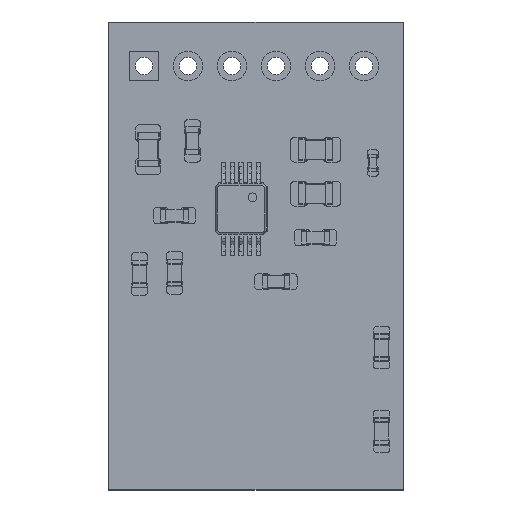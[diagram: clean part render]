
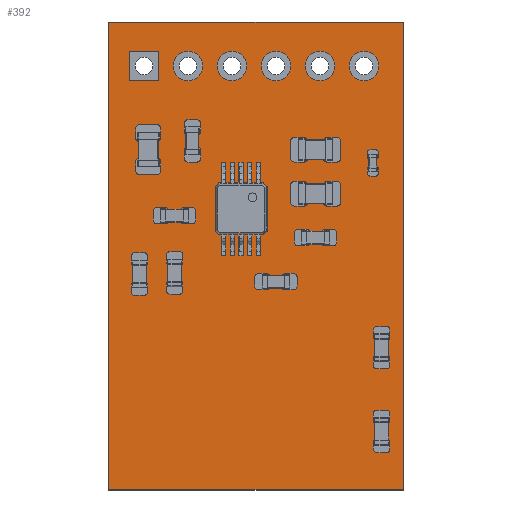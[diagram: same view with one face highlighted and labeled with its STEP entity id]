
A CAD part, top view. The second image highlights one B-rep face of the part: STEP entity #392.
In plain terms, the highlighted planar face has unit normal (0, 0, 1).
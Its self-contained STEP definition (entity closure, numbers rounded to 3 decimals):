
#75 = VERTEX_POINT('',#76);
#76 = CARTESIAN_POINT('',(134.62,-67.64,0.));
#93 = VERTEX_POINT('',#94);
#94 = CARTESIAN_POINT('',(151.62,-67.64,0.));
#100 = EDGE_CURVE('',#75,#93,#101,.T.);
#101 = LINE('',#102,#103);
#102 = CARTESIAN_POINT('',(134.62,-67.64,0.));
#103 = VECTOR('',#104,1.);
#104 = DIRECTION('',(1.,0.,0.));
#115 = VERTEX_POINT('',#116);
#116 = CARTESIAN_POINT('',(134.62,-40.64,0.));
#131 = EDGE_CURVE('',#115,#75,#132,.T.);
#132 = LINE('',#133,#134);
#133 = CARTESIAN_POINT('',(134.62,-40.64,0.));
#134 = VECTOR('',#135,1.);
#135 = DIRECTION('',(0.,-1.,0.));
#146 = VERTEX_POINT('',#147);
#147 = CARTESIAN_POINT('',(151.62,-40.64,0.));
#162 = EDGE_CURVE('',#146,#93,#163,.T.);
#163 = LINE('',#164,#165);
#164 = CARTESIAN_POINT('',(151.62,-40.64,0.));
#165 = VECTOR('',#166,1.);
#166 = DIRECTION('',(0.,-1.,0.));
#184 = EDGE_CURVE('',#115,#146,#185,.T.);
#185 = LINE('',#186,#187);
#186 = CARTESIAN_POINT('',(134.62,-40.64,0.));
#187 = VECTOR('',#188,1.);
#188 = DIRECTION('',(1.,0.,0.));
#199 = VERTEX_POINT('',#200);
#200 = CARTESIAN_POINT('',(137.152,-43.18,0.));
#216 = EDGE_CURVE('',#199,#199,#217,.T.);
#217 = CIRCLE('',#218,0.5);
#218 = AXIS2_PLACEMENT_3D('',#219,#220,#221);
#219 = CARTESIAN_POINT('',(136.652,-43.18,0.));
#220 = DIRECTION('',(0.,0.,1.));
#221 = DIRECTION('',(1.,0.,-0.));
#232 = VERTEX_POINT('',#233);
#233 = CARTESIAN_POINT('',(139.692,-43.18,0.));
#249 = EDGE_CURVE('',#232,#232,#250,.T.);
#250 = CIRCLE('',#251,0.5);
#251 = AXIS2_PLACEMENT_3D('',#252,#253,#254);
#252 = CARTESIAN_POINT('',(139.192,-43.18,0.));
#253 = DIRECTION('',(0.,0.,1.));
#254 = DIRECTION('',(1.,0.,-0.));
#265 = VERTEX_POINT('',#266);
#266 = CARTESIAN_POINT('',(142.232,-43.18,0.));
#282 = EDGE_CURVE('',#265,#265,#283,.T.);
#283 = CIRCLE('',#284,0.5);
#284 = AXIS2_PLACEMENT_3D('',#285,#286,#287);
#285 = CARTESIAN_POINT('',(141.732,-43.18,0.));
#286 = DIRECTION('',(0.,0.,1.));
#287 = DIRECTION('',(1.,0.,-0.));
#298 = VERTEX_POINT('',#299);
#299 = CARTESIAN_POINT('',(144.772,-43.18,0.));
#315 = EDGE_CURVE('',#298,#298,#316,.T.);
#316 = CIRCLE('',#317,0.5);
#317 = AXIS2_PLACEMENT_3D('',#318,#319,#320);
#318 = CARTESIAN_POINT('',(144.272,-43.18,0.));
#319 = DIRECTION('',(0.,0.,1.));
#320 = DIRECTION('',(1.,0.,-0.));
#331 = VERTEX_POINT('',#332);
#332 = CARTESIAN_POINT('',(147.312,-43.18,0.));
#348 = EDGE_CURVE('',#331,#331,#349,.T.);
#349 = CIRCLE('',#350,0.5);
#350 = AXIS2_PLACEMENT_3D('',#351,#352,#353);
#351 = CARTESIAN_POINT('',(146.812,-43.18,0.));
#352 = DIRECTION('',(0.,0.,1.));
#353 = DIRECTION('',(1.,0.,-0.));
#364 = VERTEX_POINT('',#365);
#365 = CARTESIAN_POINT('',(149.852,-43.18,0.));
#381 = EDGE_CURVE('',#364,#364,#382,.T.);
#382 = CIRCLE('',#383,0.5);
#383 = AXIS2_PLACEMENT_3D('',#384,#385,#386);
#384 = CARTESIAN_POINT('',(149.352,-43.18,0.));
#385 = DIRECTION('',(0.,0.,1.));
#386 = DIRECTION('',(1.,0.,-0.));
#392 = ADVANCED_FACE('',(#393,#399,#402,#405,#408,#411,#414),#417,.T.);
#393 = FACE_BOUND('',#394,.T.);
#394 = EDGE_LOOP('',(#395,#396,#397,#398));
#395 = ORIENTED_EDGE('',*,*,#100,.T.);
#396 = ORIENTED_EDGE('',*,*,#162,.F.);
#397 = ORIENTED_EDGE('',*,*,#184,.F.);
#398 = ORIENTED_EDGE('',*,*,#131,.T.);
#399 = FACE_BOUND('',#400,.T.);
#400 = EDGE_LOOP('',(#401));
#401 = ORIENTED_EDGE('',*,*,#216,.F.);
#402 = FACE_BOUND('',#403,.T.);
#403 = EDGE_LOOP('',(#404));
#404 = ORIENTED_EDGE('',*,*,#249,.F.);
#405 = FACE_BOUND('',#406,.T.);
#406 = EDGE_LOOP('',(#407));
#407 = ORIENTED_EDGE('',*,*,#282,.F.);
#408 = FACE_BOUND('',#409,.T.);
#409 = EDGE_LOOP('',(#410));
#410 = ORIENTED_EDGE('',*,*,#315,.F.);
#411 = FACE_BOUND('',#412,.T.);
#412 = EDGE_LOOP('',(#413));
#413 = ORIENTED_EDGE('',*,*,#348,.F.);
#414 = FACE_BOUND('',#415,.T.);
#415 = EDGE_LOOP('',(#416));
#416 = ORIENTED_EDGE('',*,*,#381,.F.);
#417 = PLANE('',#418);
#418 = AXIS2_PLACEMENT_3D('',#419,#420,#421);
#419 = CARTESIAN_POINT('',(143.12,-54.14,0.));
#420 = DIRECTION('',(0.,0.,1.));
#421 = DIRECTION('',(1.,0.,0.));
